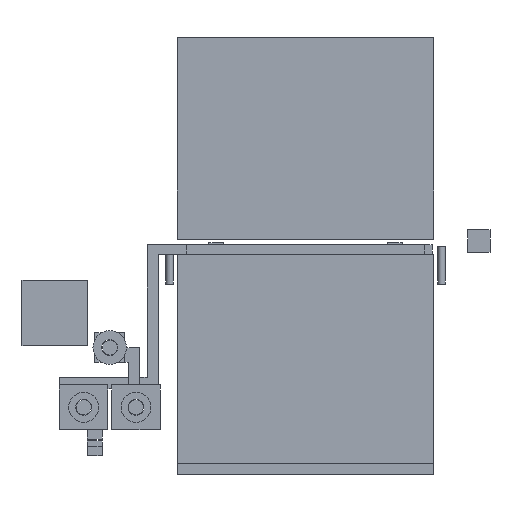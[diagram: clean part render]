
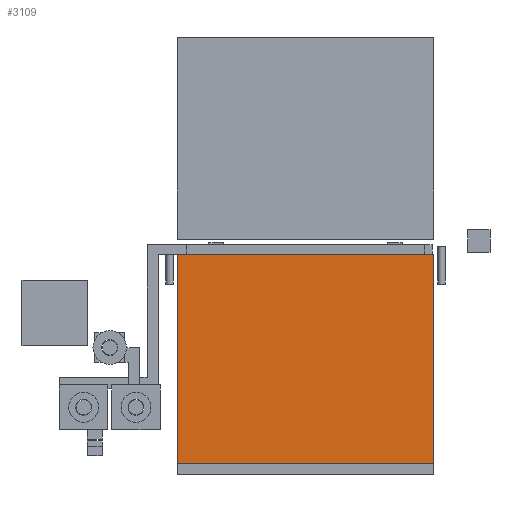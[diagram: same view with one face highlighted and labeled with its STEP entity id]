
A CAD part, front view. The second image highlights one B-rep face of the part: STEP entity #3109.
In plain terms, the highlighted planar face has unit normal (0, -1, 0).
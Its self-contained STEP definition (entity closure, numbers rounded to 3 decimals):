
#3033 = EDGE_CURVE('',#3034,#3036,#3038,.T.);
#3034 = VERTEX_POINT('',#3035);
#3035 = CARTESIAN_POINT('',(-12.,-212.,22.));
#3036 = VERTEX_POINT('',#3037);
#3037 = CARTESIAN_POINT('',(-12.,-212.,134.));
#3038 = LINE('',#3039,#3040);
#3039 = CARTESIAN_POINT('',(-12.,-212.,22.));
#3040 = VECTOR('',#3041,1.);
#3041 = DIRECTION('',(0.,0.,1.));
#3073 = EDGE_CURVE('',#3074,#3076,#3078,.T.);
#3074 = VERTEX_POINT('',#3075);
#3075 = CARTESIAN_POINT('',(125.5,-212.,22.));
#3076 = VERTEX_POINT('',#3077);
#3077 = CARTESIAN_POINT('',(125.5,-212.,134.));
#3078 = LINE('',#3079,#3080);
#3079 = CARTESIAN_POINT('',(125.5,-212.,22.));
#3080 = VECTOR('',#3081,1.);
#3081 = DIRECTION('',(0.,0.,1.));
#3109 = ADVANCED_FACE('',(#3110),#3126,.F.);
#3110 = FACE_BOUND('',#3111,.F.);
#3111 = EDGE_LOOP('',(#3112,#3118,#3119,#3125));
#3112 = ORIENTED_EDGE('',*,*,#3113,.F.);
#3113 = EDGE_CURVE('',#3034,#3074,#3114,.T.);
#3114 = LINE('',#3115,#3116);
#3115 = CARTESIAN_POINT('',(-12.,-212.,22.));
#3116 = VECTOR('',#3117,1.);
#3117 = DIRECTION('',(1.,0.,0.));
#3118 = ORIENTED_EDGE('',*,*,#3033,.T.);
#3119 = ORIENTED_EDGE('',*,*,#3120,.T.);
#3120 = EDGE_CURVE('',#3036,#3076,#3121,.T.);
#3121 = LINE('',#3122,#3123);
#3122 = CARTESIAN_POINT('',(-12.,-212.,134.));
#3123 = VECTOR('',#3124,1.);
#3124 = DIRECTION('',(1.,0.,0.));
#3125 = ORIENTED_EDGE('',*,*,#3073,.F.);
#3126 = PLANE('',#3127);
#3127 = AXIS2_PLACEMENT_3D('',#3128,#3129,#3130);
#3128 = CARTESIAN_POINT('',(-12.,-212.,22.));
#3129 = DIRECTION('',(0.,1.,0.));
#3130 = DIRECTION('',(0.,0.,1.));
